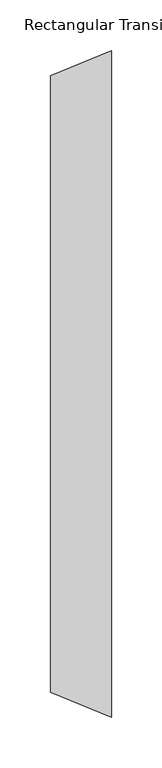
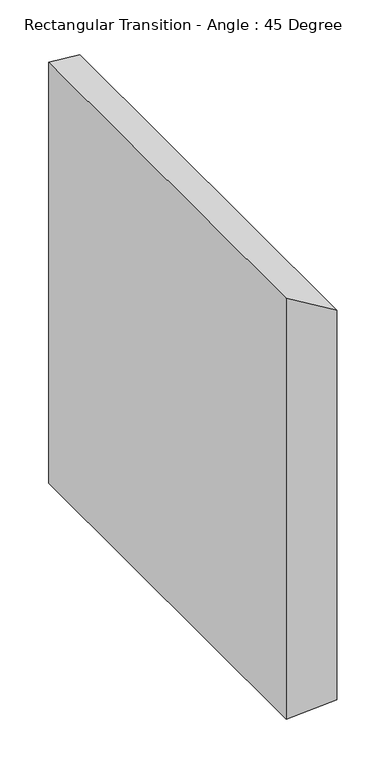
"""IFC4 building model written with IfcOpenShell, lengths in millimetres: duct fitting geometry, Rectangular Transition - Angle : 45 Degree."""

from ifc_helpers import new_model, si_unit, origin, place, context, project, spatial, faceted_brep, source, transform, mapped, element, save


def rectangular_transition_angle_45_degree_8235ca17(model_context):
    return source(origin(), model_context, "Body", "Brep", [
        faceted_brep([(60.3553391, -330.0, 305.0), (60.3553391, -330.0, -305.0), (60.3553391, 330.0, -305.0), (60.3553391, 330.0, 305.0), (0.0, -305.0, 330.0), (0.0, 305.0, 330.0), (0.0, 305.0, -330.0), (0.0, -305.0, -330.0)], [[[0, 1, 2, 3]], [[4, 5, 6, 7]], [[4, 7, 1, 0]], [[7, 6, 2, 1]], [[6, 5, 3, 2]], [[5, 4, 0, 3]]]),
    ])


if __name__ == "__main__":
    model = new_model("IFC4")
    model_context = context("Model", 3, world=origin())
    ifc_project = project(units=[si_unit("LENGTHUNIT", "METRE", prefix="MILLI")], contexts=[model_context])
    site = spatial("IfcSite", under=ifc_project)
    building = spatial("IfcBuilding", under=site)
    placement = place(None, origin())
    rectangular_transition_angle_45_degree_shape = rectangular_transition_angle_45_degree_8235ca17(model_context)
    element("IfcDuctFitting", 1, ObjectType="Rectangular Transition - Angle : 45 Degree", at=placement, inside=building, context=model_context, shape_type="MappedRepresentation", body=[
        mapped(rectangular_transition_angle_45_degree_shape, transform((0.0, 0.0, 0.0), x_axis=(1.0, 0.0, 0.0), y_axis=(0.0, 1.0, 0.0), z_axis=(0.0, 0.0, 1.0))),
    ])
    save(model, "model.ifc")
